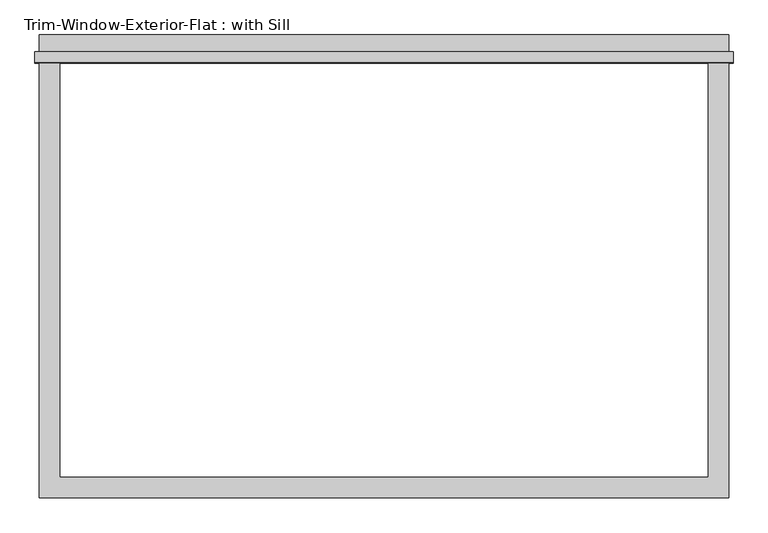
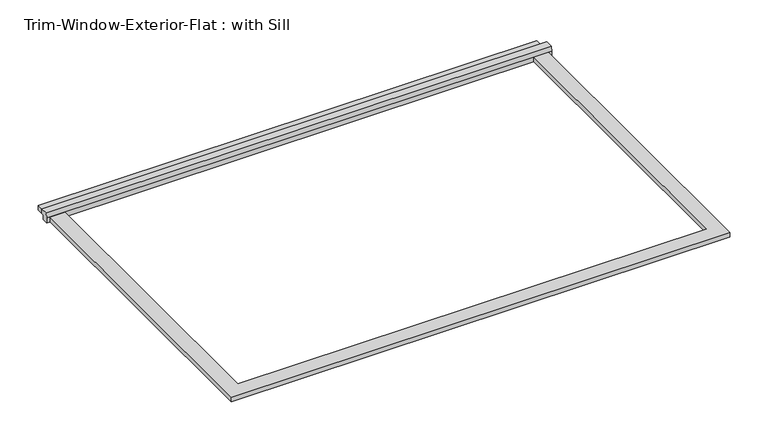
"""IFC4 building model written with IfcOpenShell, lengths in millimetres: proxy geometry, Trim-Window-Exterior-Flat : with Sill."""

from ifc_helpers import new_model, si_unit, frame, origin, origin_with_axes, place, context, project, spatial, polyline, outline, extrude, source, transform, mapped, element, save


def trim_window_exterior_flat_with_sill_0b531897(model_context):
    return source(origin(), model_context, "Body", "SweptSolid", [
        extrude(outline(polyline([(971.55, 1190.5823709), (-971.55, 1190.5823709), (-971.55, 1247.7323709), (971.55, 1247.7323709), (971.55, 1190.5823709)])), origin_with_axes(), (0.0, 0.0, 1.0), 19.05),
        extrude(outline(polyline([(1200.15, 38.1), (1200.15, 19.05), (1190.5823709, 19.05), (1190.5823709, 0.0), (1168.4, 0.0), (1168.4, 19.05), (1170.8580645, 38.1), (1200.15, 38.1)])), frame((-984.25, 0.0, 0.0), z_axis=(1.0, 0.0, 0.0), x_axis=(0.0, 1.0, 0.0)), (0.0, 0.0, 1.0), 1968.5),
        extrude(outline(polyline([(-971.55, -57.15), (-971.55, 1168.4), (-914.4, 1168.4), (-914.4, 0.0), (914.4, 0.0), (914.4, 1168.4), (971.55, 1168.4), (971.55, -57.15), (-971.55, -57.15)])), origin_with_axes(), (0.0, 0.0, 1.0), 19.05),
    ])


if __name__ == "__main__":
    model = new_model("IFC4")
    model_context = context("Model", 3, world=origin())
    ifc_project = project(units=[si_unit("LENGTHUNIT", "METRE", prefix="MILLI")], contexts=[model_context])
    site = spatial("IfcSite", under=ifc_project)
    building = spatial("IfcBuilding", under=site)
    placement = place(None, origin())
    trim_window_exterior_flat_with_sill_shape = trim_window_exterior_flat_with_sill_0b531897(model_context)
    element("IfcBuildingElementProxy", 1, Name="Trim-Window-Exterior-Flat : with Sill", ObjectType="Trim-Window-Exterior-Flat : with Sill", at=placement, inside=building, context=model_context, shape_type="MappedRepresentation", body=[
        mapped(trim_window_exterior_flat_with_sill_shape, transform((0.0, 0.0, 0.0), x_axis=(1.0, 0.0, 0.0), y_axis=(0.0, 1.0, 0.0), z_axis=(0.0, 0.0, 1.0))),
    ])
    save(model, "model.ifc")
